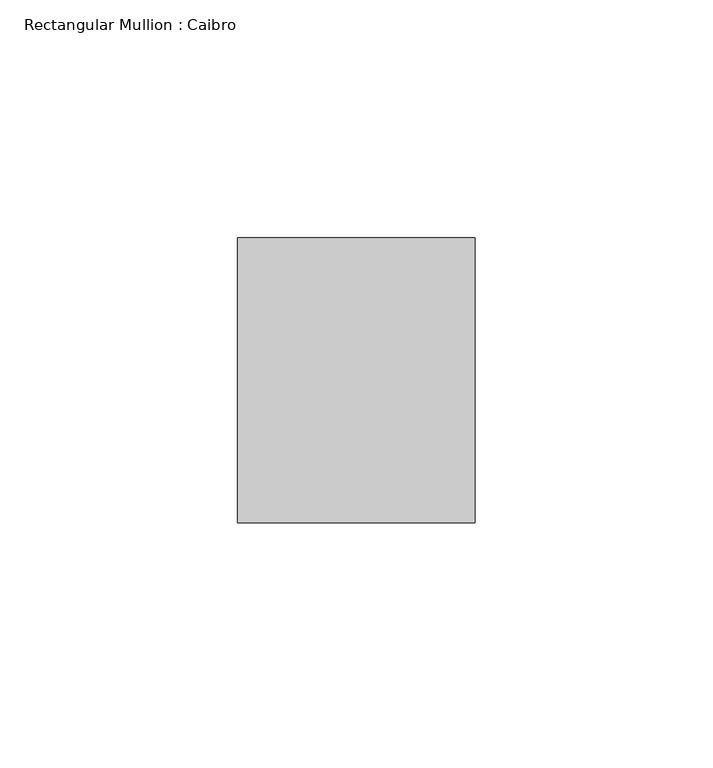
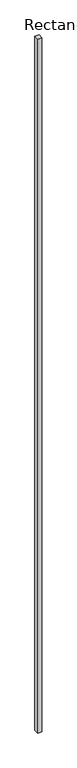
"""IFC4 building model written with IfcOpenShell, lengths in millimetres: member geometry, Rectangular Mullion : Caibro."""

import ifcopenshell
import ifcopenshell.guid

model = None  # the IFC model being written
_history = None  # IfcOwnerHistory: only IFC2X3 demands one
_inside = {}  # id of a spatial element -> (the spatial element, [elements in it])
_under = {}  # id of a project, library or spatial element -> (it, [spatial elements below it])
_declared = {}  # id of a project -> (the project, [libraries it declares])
_typed = {}  # id of a type object -> (the type object, [elements of that type])
_made_of = {}  # id of a material, layer set ... -> (it, [elements and type objects made of it])


def new_model(schema):
    """Start an empty IFC model of exactly this schema.

    Asked for "IFC4X3", IfcOpenShell would pick the latest addendum, in which some entities
    have other attributes; the version numbers below select the first issue.
    IFC2X3 requires an IfcOwnerHistory on every rooted entity: one is made here for all.
    """
    global model, _history
    if schema == "IFC4X3":
        model = ifcopenshell.file(schema_version=(4, 3, 0, 0))
    else:
        model = ifcopenshell.file(schema=schema)
    _inside.clear()
    _under.clear()
    _declared.clear()
    _typed.clear()
    _made_of.clear()
    _history = None
    if model.schema == "IFC2X3":
        org = make("IfcOrganization", Name="unknown")
        user = make(
            "IfcPersonAndOrganization",
            ThePerson=make("IfcPerson", FamilyName="unknown"),
            TheOrganization=org,
        )
        app = make(
            "IfcApplication",
            ApplicationDeveloper=org,
            Version="unknown",
            ApplicationFullName="unknown",
            ApplicationIdentifier="unknown",
        )
        _history = make(
            "IfcOwnerHistory",
            OwningUser=user,
            OwningApplication=app,
            ChangeAction="ADDED",
            CreationDate=0,
        )
    return model


def make(cls, **values):
    """One entity of the class cls with the attributes given. An attribute that is None is left unset."""
    return model.create_entity(
        cls, **{name: value for name, value in values.items() if value is not None}
    )


def rooted(cls, **values):
    """An entity with a GlobalId (a new one), such as an element, a storey or a relation."""
    return make(cls, GlobalId=ifcopenshell.guid.new(), OwnerHistory=_history, **values)


def si_unit(unit_type, name, prefix=None):
    """IfcSIUnit, for example si_unit("LENGTHUNIT", "METRE", prefix="MILLI")."""
    return make("IfcSIUnit", UnitType=unit_type, Prefix=prefix, Name=name)


def assignment(units):
    """IfcUnitAssignment: the units of a project."""
    return None if units is None else make("IfcUnitAssignment", Units=units)


def point(xyz):
    """IfcCartesianPoint."""
    return None if xyz is None else make("IfcCartesianPoint", Coordinates=xyz)


def direction(xyz):
    """IfcDirection."""
    return None if xyz is None else make("IfcDirection", DirectionRatios=xyz)


def frame(location, z_axis=None, x_axis=None):
    """IfcAxis2Placement3D, a coordinate frame: its origin and axes. An axis left out is left unset."""
    return make(
        "IfcAxis2Placement3D",
        Location=point(location),
        Axis=direction(z_axis),
        RefDirection=direction(x_axis),
    )


def origin():
    """The frame at (0, 0, 0) with its axes left unset."""
    return frame((0.0, 0.0, 0.0))


def place(relative_to, where):
    """IfcLocalPlacement: puts the frame where relative to a parent placement (None: the world)."""
    return make(
        "IfcLocalPlacement", PlacementRelTo=relative_to, RelativePlacement=where
    )


def context(
    kind, dimensions, precision=None, world=None, true_north=None, identifier=None
):
    """IfcGeometricRepresentationContext, for example the 3D "Model" context."""
    return make(
        "IfcGeometricRepresentationContext",
        ContextIdentifier=identifier,
        ContextType=kind,
        CoordinateSpaceDimension=dimensions,
        Precision=precision,
        WorldCoordinateSystem=world,
        TrueNorth=true_north,
    )


def project(units=None, contexts=None):
    """IfcProject with its units and contexts."""
    return rooted(
        "IfcProject",
        Name="project",
        RepresentationContexts=contexts,
        UnitsInContext=assignment(units),
    )


def spatial(cls, under=None, at=None, **own):
    """A site, building, storey or space (cls), placed at a placement, below another one or the project."""
    s = rooted(cls, ObjectPlacement=at, **own)
    if under is not None:
        _under.setdefault(under.id(), (under, []))[1].append(s)
    return s


def polyline(points):
    """IfcPolyline through the points."""
    return make("IfcPolyline", Points=[point(p) for p in points])


def outline(outer, holes=None, kind="AREA"):
    """IfcArbitraryClosedProfileDef: a profile drawn as a closed curve; with holes, ...WithVoids."""
    if holes is None:
        return make("IfcArbitraryClosedProfileDef", ProfileType=kind, OuterCurve=outer)
    return make(
        "IfcArbitraryProfileDefWithVoids",
        ProfileType=kind,
        OuterCurve=outer,
        InnerCurves=holes,
    )


def extrude(swept, where, along, depth):
    """IfcExtrudedAreaSolid: the profile swept, set in the frame where, extruded along a direction by depth."""
    return make(
        "IfcExtrudedAreaSolid",
        SweptArea=swept,
        Position=where,
        ExtrudedDirection=direction(along),
        Depth=depth,
    )


def shape(context_of_items, identifier, shape_type, items):
    """IfcShapeRepresentation: the items that make up one representation, for example the "Body"."""
    return make(
        "IfcShapeRepresentation",
        ContextOfItems=context_of_items,
        RepresentationIdentifier=identifier,
        RepresentationType=shape_type,
        Items=items,
    )


def source(mapping_origin, context_of_items, identifier, shape_type, items):
    """IfcRepresentationMap: a shape defined once, which mapped items show again and again."""
    return make(
        "IfcRepresentationMap",
        MappingOrigin=mapping_origin,
        MappedRepresentation=shape(context_of_items, identifier, shape_type, items),
    )


def transform(
    local_origin,
    x_axis=None,
    y_axis=None,
    z_axis=None,
    scale=None,
    scale2=None,
    scale3=None,
    uniform=True,
):
    """IfcCartesianTransformationOperator3D, or its non-uniform kind. x_axis, y_axis, z_axis: its Axis1, 2, 3."""
    if uniform:
        return make(
            "IfcCartesianTransformationOperator3D",
            Axis1=direction(x_axis),
            Axis2=direction(y_axis),
            LocalOrigin=point(local_origin),
            Scale=scale,
            Axis3=direction(z_axis),
        )
    return make(
        "IfcCartesianTransformationOperator3DnonUniform",
        Axis1=direction(x_axis),
        Axis2=direction(y_axis),
        LocalOrigin=point(local_origin),
        Scale=scale,
        Axis3=direction(z_axis),
        Scale2=scale2,
        Scale3=scale3,
    )


def mapped(mapping_source, mapping_target):
    """IfcMappedItem: shows the shape of a source again, moved by a transform."""
    return make(
        "IfcMappedItem", MappingSource=mapping_source, MappingTarget=mapping_target
    )


def made_of(thing, what):
    """Note that an element or type object is made of a material, layer set ...; save() writes the relation."""
    if what is not None:
        _made_of.setdefault(what.id(), (what, []))[1].append(thing)
    return thing


def element(
    cls,
    number,
    at=None,
    inside=None,
    cuts=None,
    type_object=None,
    material=None,
    context=None,
    identifier="Body",
    shape_type=None,
    held_by="IfcProductDefinitionShape",
    body=None,
    shapes=None,
    **own,
):
    """One element of the class cls, such as IfcWall. Its Tag is "e" and its number.

    at: its placement. inside: the storey or other place that contains it. cuts: it is an
    opening in that element (IfcRelVoidsElement). A single representation is given by context,
    identifier, shape_type and body (its items); several are given by shapes. held_by: the class
    of the entity that holds the representations. save() writes the other relations.
    """
    e = rooted(cls, Tag="e%d" % number, ObjectPlacement=at, **own)
    if body is not None:
        shapes = [shape(context, identifier, shape_type, body)]
    if shapes is not None:
        e.Representation = make(held_by, Representations=shapes)
    if inside is not None:
        _inside.setdefault(inside.id(), (inside, []))[1].append(e)
    if cuts is not None:
        rooted(
            "IfcRelVoidsElement", RelatingBuildingElement=cuts, RelatedOpeningElement=e
        )
    if type_object is not None:
        _typed.setdefault(type_object.id(), (type_object, []))[1].append(e)
    return made_of(e, material)


def aggregate(whole, parts):
    """IfcRelAggregates: a whole, such as a stair, and the parts it consists of."""
    return rooted("IfcRelAggregates", RelatingObject=whole, RelatedObjects=parts)


def save(model, path):
    """Write the relations noted so far, then the file.

    IfcRelAggregates (storeys below a building ...), IfcRelContainedInSpatialStructure (elements
    in a storey), IfcRelDefinesByType, IfcRelAssociatesMaterial and IfcRelDeclares: one each for
    every whole, place, type object, material and project.
    """
    for whole, parts in _under.values():
        aggregate(whole, parts)
    for where, things in _inside.values():
        rooted(
            "IfcRelContainedInSpatialStructure",
            RelatedElements=things,
            RelatingStructure=where,
        )
    for kind, things in _typed.values():
        rooted("IfcRelDefinesByType", RelatedObjects=things, RelatingType=kind)
    for what, things in _made_of.values():
        rooted("IfcRelAssociatesMaterial", RelatedObjects=things, RelatingMaterial=what)
    for by, libraries in _declared.values():
        rooted("IfcRelDeclares", RelatingContext=by, RelatedDefinitions=libraries)
    model.write(path)


def rectangular_mullion_caibro_ac6bc083(model_context):
    return source(origin(), model_context, "Body", "SweptSolid", [
        extrude(outline(polyline([(-25.0, -60.0), (-25.0, 0.0), (25.0, 0.0), (25.0, -60.0), (-25.0, -60.0)])), frame((0.0, 0.0, -8943.4436228), z_axis=(0.0, 0.0, 1.0), x_axis=(1.0, 0.0, 0.0)), (0.0, 0.0, 1.0), 8943.4436228),
    ])


if __name__ == "__main__":
    model = new_model("IFC4")
    model_context = context("Model", 3, world=origin())
    ifc_project = project(units=[si_unit("LENGTHUNIT", "METRE", prefix="MILLI")], contexts=[model_context])
    site = spatial("IfcSite", under=ifc_project)
    building = spatial("IfcBuilding", under=site)
    placement = place(None, origin())
    rectangular_mullion_caibro_shape = rectangular_mullion_caibro_ac6bc083(model_context)
    element("IfcMember", 1, ObjectType="Rectangular Mullion : Caibro", at=placement, inside=building, context=model_context, shape_type="MappedRepresentation", body=[
        mapped(rectangular_mullion_caibro_shape, transform((0.0, 0.0, 0.0), x_axis=(1.0, 0.0, 0.0), y_axis=(0.0, 1.0, 0.0), z_axis=(0.0, 0.0, 1.0))),
    ])
    save(model, "model.ifc")
